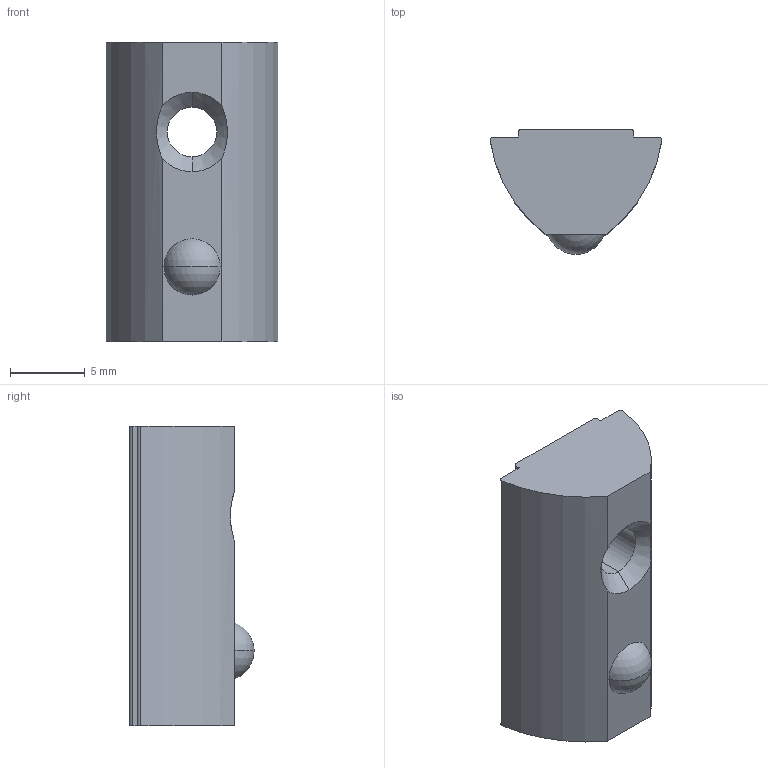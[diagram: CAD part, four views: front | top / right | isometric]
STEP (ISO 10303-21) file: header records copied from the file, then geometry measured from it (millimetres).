
FILE_DESCRIPTION (( 'STEP AP203' ), '1' );
FILE_NAME ('LIMA-LHNR4-83030.STEP', '2018-03-15T12:14:13', ( '' ), ( '' ), 'SwSTEP 2.0', 'SolidWorks 2013', '' );
FILE_SCHEMA (( 'CONFIG_CONTROL_DESIGN' ));
Length unit declared in the file: millimetre
Products named in the file (1): LIMA-LHNR4-83030
Bounding box: 11.44 x 8.3 x 20 mm (x, y, z)
Volume: 1180.7 mm3; surface area: 806.7 mm2
Topology: 1 solids, 1 shells, 24 faces, 63 edges, 41 vertices
Faces by surface type: cylinder 9, plane 9, cone 4, sphere 2
Entity records: 850 total; most frequent: CARTESIAN_POINT 151, DIRECTION 139, ORIENTED_EDGE 126, EDGE_CURVE 63, AXIS2_PLACEMENT_3D 53, VERTEX_POINT 41, VECTOR 33, LINE 33
